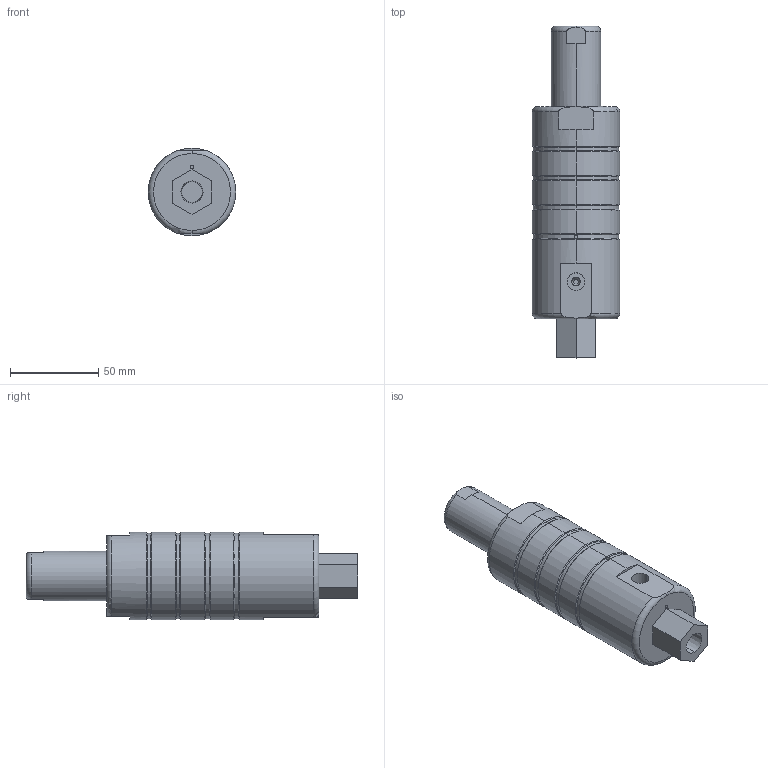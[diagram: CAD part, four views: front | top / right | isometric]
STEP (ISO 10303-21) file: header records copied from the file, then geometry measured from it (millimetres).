
FILE_DESCRIPTION (( 'STEP AP203' ), '1' );
FILE_NAME ('RV20FAS04-1.STEP', '2021-02-22T02:28:42', ( '' ), ( '' ), 'SwSTEP 2.0', 'SolidWorks 2020', '' );
FILE_SCHEMA (( 'CONFIG_CONTROL_DESIGN' ));
Length unit declared in the file: millimetre
Products named in the file (1): RV20FAS04-1
Bounding box: 49.5 x 187.6 x 49.5 mm (x, y, z)
Volume: 262144.9 mm3; surface area: 29165.6 mm2
Topology: 1 solids, 1 shells, 80 faces, 183 edges, 110 vertices
Faces by surface type: cylinder 28, plane 26, cone 20, torus 6
Entity records: 2578 total; most frequent: CARTESIAN_POINT 666, DIRECTION 409, ORIENTED_EDGE 366, EDGE_CURVE 183, AXIS2_PLACEMENT_3D 163, VERTEX_POINT 110, EDGE_LOOP 87, VECTOR 83
